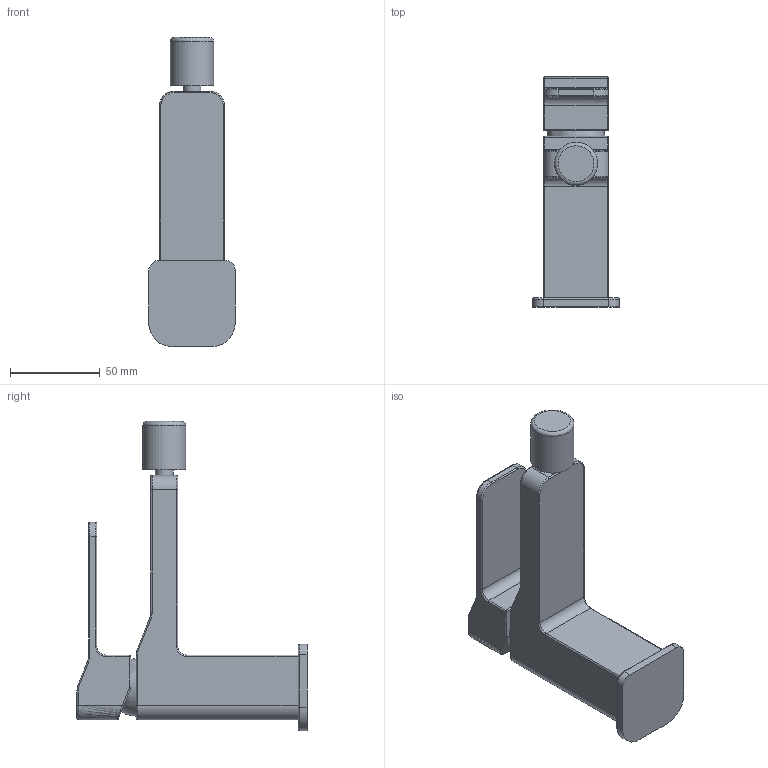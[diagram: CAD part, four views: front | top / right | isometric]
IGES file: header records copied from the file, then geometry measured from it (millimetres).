
Global section: file name: 1d273d53-0452-472c-99ac-04930f561d3e; native system: unknown; preprocessor: unknown; author: unknown; organization: unknown; date: 20191128.070529; units: millimetre
Bounding box: 48 x 128 x 172 mm (x, y, z)
Volume: 249155.9 mm3; surface area: 44645.5 mm2
Topology: 5 solids, 5 shells, 121 faces, 265 edges, 154 vertices
Faces by surface type: bspline 121
